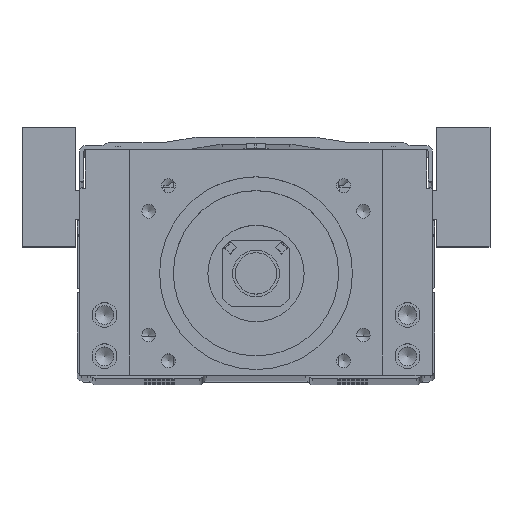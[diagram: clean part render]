
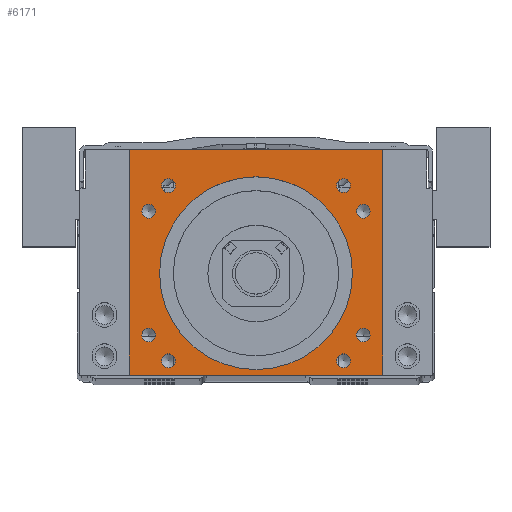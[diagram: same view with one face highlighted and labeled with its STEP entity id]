
A CAD part, top view. The second image highlights one B-rep face of the part: STEP entity #6171.
In plain terms, the highlighted planar face has unit normal (0, 0, 1).
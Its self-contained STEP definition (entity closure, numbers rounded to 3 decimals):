
#2045=FACE_BOUND('',#8769,.T.);
#2046=FACE_BOUND('',#8770,.T.);
#2047=FACE_BOUND('',#8771,.T.);
#2048=FACE_BOUND('',#8772,.T.);
#2049=FACE_BOUND('',#8773,.T.);
#2050=FACE_BOUND('',#8774,.T.);
#2051=FACE_BOUND('',#8775,.T.);
#2052=FACE_BOUND('',#8776,.T.);
#2053=FACE_BOUND('',#8777,.T.);
#2054=FACE_BOUND('',#8778,.T.);
#2893=LINE('',#27197,#4399);
#3331=LINE('',#28937,#4837);
#3336=LINE('',#28945,#4842);
#3341=LINE('',#28954,#4847);
#4399=VECTOR('',#21849,1.);
#4837=VECTOR('',#23209,1.);
#4842=VECTOR('',#23220,1.);
#4847=VECTOR('',#23227,1.);
#6171=ADVANCED_FACE('',(#2045,#2046,#2047,#2048,#2049,#2050,#2051,#2052,
#2053,#2054),#7216,.T.);
#7216=PLANE('',#20396);
#8769=EDGE_LOOP('',(#11392,#11393,#11394,#11395));
#8770=EDGE_LOOP('',(#11396));
#8771=EDGE_LOOP('',(#11397));
#8772=EDGE_LOOP('',(#11398));
#8773=EDGE_LOOP('',(#11399));
#8774=EDGE_LOOP('',(#11400));
#8775=EDGE_LOOP('',(#11401));
#8776=EDGE_LOOP('',(#11402));
#8777=EDGE_LOOP('',(#11403));
#8778=EDGE_LOOP('',(#11404));
#11392=ORIENTED_EDGE('',*,*,#17457,.T.);
#11393=ORIENTED_EDGE('',*,*,#16761,.T.);
#11394=ORIENTED_EDGE('',*,*,#17452,.T.);
#11395=ORIENTED_EDGE('',*,*,#17462,.T.);
#11396=ORIENTED_EDGE('',*,*,#17470,.F.);
#11397=ORIENTED_EDGE('',*,*,#17471,.T.);
#11398=ORIENTED_EDGE('',*,*,#17472,.T.);
#11399=ORIENTED_EDGE('',*,*,#17473,.F.);
#11400=ORIENTED_EDGE('',*,*,#17469,.F.);
#11401=ORIENTED_EDGE('',*,*,#17474,.T.);
#11402=ORIENTED_EDGE('',*,*,#17475,.T.);
#11403=ORIENTED_EDGE('',*,*,#17476,.T.);
#11404=ORIENTED_EDGE('',*,*,#17477,.T.);
#14923=VERTEX_POINT('',#27196);
#14924=VERTEX_POINT('',#27198);
#15435=VERTEX_POINT('',#28935);
#15437=VERTEX_POINT('',#28946);
#15443=VERTEX_POINT('',#28970);
#15444=VERTEX_POINT('',#28973);
#15445=VERTEX_POINT('',#28975);
#15446=VERTEX_POINT('',#28977);
#15447=VERTEX_POINT('',#28979);
#15448=VERTEX_POINT('',#28981);
#15449=VERTEX_POINT('',#28983);
#15450=VERTEX_POINT('',#28985);
#15451=VERTEX_POINT('',#28987);
#16761=EDGE_CURVE('',#14924,#14923,#2893,.T.);
#17452=EDGE_CURVE('',#14923,#15435,#3331,.T.);
#17457=EDGE_CURVE('',#15437,#14924,#3336,.T.);
#17462=EDGE_CURVE('',#15435,#15437,#3341,.T.);
#17469=EDGE_CURVE('',#15443,#15443,#19356,.T.);
#17470=EDGE_CURVE('',#15444,#15444,#19357,.T.);
#17471=EDGE_CURVE('',#15445,#15445,#19358,.T.);
#17472=EDGE_CURVE('',#15446,#15446,#19359,.T.);
#17473=EDGE_CURVE('',#15447,#15447,#19360,.T.);
#17474=EDGE_CURVE('',#15448,#15448,#19361,.T.);
#17475=EDGE_CURVE('',#15449,#15449,#19362,.T.);
#17476=EDGE_CURVE('',#15450,#15450,#19363,.T.);
#17477=EDGE_CURVE('',#15451,#15451,#19364,.T.);
#19356=CIRCLE('',#20386,35.015);
#19357=CIRCLE('',#20388,2.5);
#19358=CIRCLE('',#20389,2.5);
#19359=CIRCLE('',#20390,2.5);
#19360=CIRCLE('',#20391,2.5);
#19361=CIRCLE('',#20392,2.5);
#19362=CIRCLE('',#20393,2.5);
#19363=CIRCLE('',#20394,2.5);
#19364=CIRCLE('',#20395,2.5);
#20386=AXIS2_PLACEMENT_3D('',#28969,#23246,#23247);
#20388=AXIS2_PLACEMENT_3D('',#28972,#23250,#23251);
#20389=AXIS2_PLACEMENT_3D('',#28974,#23252,#23253);
#20390=AXIS2_PLACEMENT_3D('',#28976,#23254,#23255);
#20391=AXIS2_PLACEMENT_3D('',#28978,#23256,#23257);
#20392=AXIS2_PLACEMENT_3D('',#28980,#23258,#23259);
#20393=AXIS2_PLACEMENT_3D('',#28982,#23260,#23261);
#20394=AXIS2_PLACEMENT_3D('',#28984,#23262,#23263);
#20395=AXIS2_PLACEMENT_3D('',#28986,#23264,#23265);
#20396=AXIS2_PLACEMENT_3D('',#28988,#23266,#23267);
#21849=DIRECTION('',(-1.,0.,0.));
#23209=DIRECTION('',(0.,-1.,0.));
#23220=DIRECTION('',(0.,1.,0.));
#23227=DIRECTION('',(1.,0.,0.));
#23246=DIRECTION('',(0.,0.,1.));
#23247=DIRECTION('',(1.,0.,0.));
#23250=DIRECTION('',(0.,0.,1.));
#23251=DIRECTION('',(-1.,0.,0.));
#23252=DIRECTION('',(0.,0.,-1.));
#23253=DIRECTION('',(1.,0.,0.));
#23254=DIRECTION('',(0.,0.,-1.));
#23255=DIRECTION('',(1.,0.,0.));
#23256=DIRECTION('',(0.,0.,1.));
#23257=DIRECTION('',(-1.,0.,0.));
#23258=DIRECTION('',(0.,0.,-1.));
#23259=DIRECTION('',(1.,0.,0.));
#23260=DIRECTION('',(0.,0.,-1.));
#23261=DIRECTION('',(1.,0.,0.));
#23262=DIRECTION('',(0.,0.,-1.));
#23263=DIRECTION('',(1.,0.,0.));
#23264=DIRECTION('',(0.,0.,-1.));
#23265=DIRECTION('',(1.,0.,0.));
#23266=DIRECTION('',(0.,0.,1.));
#23267=DIRECTION('',(1.,0.,0.));
#27196=CARTESIAN_POINT('',(-46.,83.,100.));
#27197=CARTESIAN_POINT('',(0.,83.,100.));
#27198=CARTESIAN_POINT('',(46.,83.,100.));
#28935=CARTESIAN_POINT('',(-46.,1.,100.));
#28937=CARTESIAN_POINT('',(-46.,38.,100.));
#28945=CARTESIAN_POINT('',(46.,38.,100.));
#28946=CARTESIAN_POINT('',(46.,1.,100.));
#28954=CARTESIAN_POINT('',(0.,1.,100.));
#28969=CARTESIAN_POINT('',(0.,38.,100.));
#28970=CARTESIAN_POINT('',(35.015,38.,100.));
#28972=CARTESIAN_POINT('',(-38.971,15.5,100.));
#28973=CARTESIAN_POINT('',(-41.471,15.5,100.));
#28974=CARTESIAN_POINT('',(38.971,60.5,100.));
#28975=CARTESIAN_POINT('',(41.471,60.5,100.));
#28976=CARTESIAN_POINT('',(38.971,15.5,100.));
#28977=CARTESIAN_POINT('',(41.471,15.5,100.));
#28978=CARTESIAN_POINT('',(-38.971,60.5,100.));
#28979=CARTESIAN_POINT('',(-41.471,60.5,100.));
#28980=CARTESIAN_POINT('',(-31.82,69.82,100.));
#28981=CARTESIAN_POINT('',(-29.32,69.82,100.));
#28982=CARTESIAN_POINT('',(-31.82,6.18,100.));
#28983=CARTESIAN_POINT('',(-29.32,6.18,100.));
#28984=CARTESIAN_POINT('',(31.82,6.18,100.));
#28985=CARTESIAN_POINT('',(34.32,6.18,100.));
#28986=CARTESIAN_POINT('',(31.82,69.82,100.));
#28987=CARTESIAN_POINT('',(34.32,69.82,100.));
#28988=CARTESIAN_POINT('',(0.,38.,100.));
